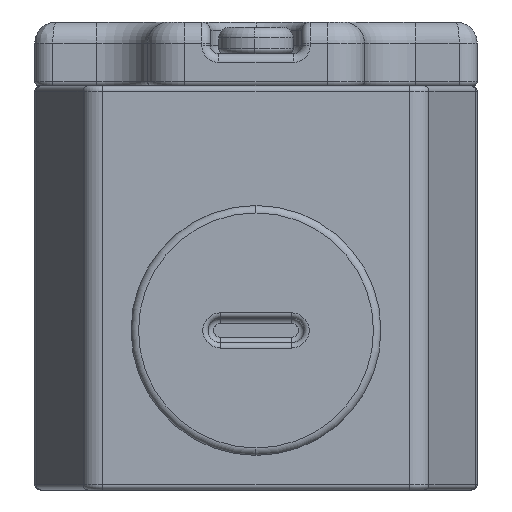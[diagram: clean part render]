
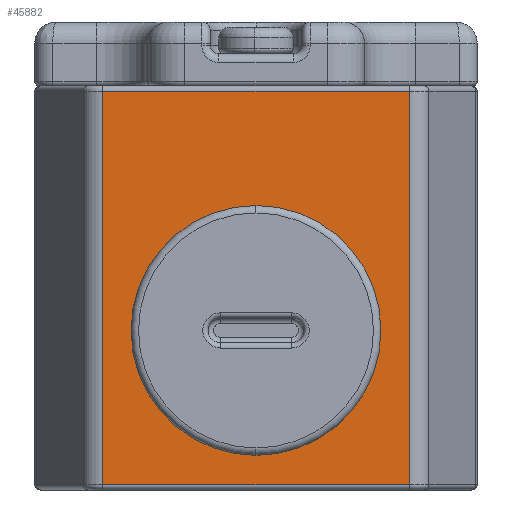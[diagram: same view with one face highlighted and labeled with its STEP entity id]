
A CAD part, front view. The second image highlights one B-rep face of the part: STEP entity #45882.
In plain terms, the highlighted planar face has unit normal (0, -1, 0).
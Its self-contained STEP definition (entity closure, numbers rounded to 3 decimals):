
#1698 = VERTEX_POINT ( 'NONE', #18604 ) ;
#1852 = VERTEX_POINT ( 'NONE', #12723 ) ;
#2044 = ORIENTED_EDGE ( 'NONE', *, *, #66373, .T. ) ;
#2371 = LINE ( 'NONE', #40154, #43772 ) ;
#3180 = VECTOR ( 'NONE', #59586, 1000. ) ;
#3765 = DIRECTION ( 'NONE',  ( 0., 1., 0. ) ) ;
#5604 = CIRCLE ( 'NONE', #63470, 11. ) ;
#5847 = DIRECTION ( 'NONE',  ( 0., 0., -1. ) ) ;
#8969 = PLANE ( 'NONE',  #44343 ) ;
#10917 = DIRECTION ( 'NONE',  ( 0., 1., 0. ) ) ;
#11167 = CIRCLE ( 'NONE', #19644, 11. ) ;
#11884 = CARTESIAN_POINT ( 'NONE',  ( 0., -80., 4. ) ) ;
#12723 = CARTESIAN_POINT ( 'NONE',  ( 14.401, -80., 0.5 ) ) ;
#14139 = ORIENTED_EDGE ( 'NONE', *, *, #21237, .T. ) ;
#14346 = CARTESIAN_POINT ( 'NONE',  ( -20.8, -80., 38. ) ) ;
#17031 = VERTEX_POINT ( 'NONE', #47786 ) ;
#18604 = CARTESIAN_POINT ( 'NONE',  ( 14.401, -80., 37.5 ) ) ;
#18733 = EDGE_LOOP ( 'NONE', ( #34837, #14139, #27853, #2044 ) ) ;
#19644 = AXIS2_PLACEMENT_3D ( 'NONE', #43299, #10917, #48593 ) ;
#21237 = EDGE_CURVE ( 'NONE', #17031, #1852, #46229, .T. ) ;
#22126 = CARTESIAN_POINT ( 'NONE',  ( -14.401, -80., 38. ) ) ;
#22163 = CARTESIAN_POINT ( 'NONE',  ( -20.8, -80., 0.5 ) ) ;
#22179 = EDGE_CURVE ( 'NONE', #33046, #17031, #40485, .T. ) ;
#26898 = FACE_OUTER_BOUND ( 'NONE', #18733, .T. ) ;
#27853 = ORIENTED_EDGE ( 'NONE', *, *, #31120, .T. ) ;
#28855 = DIRECTION ( 'NONE',  ( -1., 0., 0. ) ) ;
#30588 = CARTESIAN_POINT ( 'NONE',  ( 0., -80., 15. ) ) ;
#31120 = EDGE_CURVE ( 'NONE', #1852, #1698, #2371, .T. ) ;
#32445 = CARTESIAN_POINT ( 'NONE',  ( -14.401, -80., 37.5 ) ) ;
#33046 = VERTEX_POINT ( 'NONE', #32445 ) ;
#34663 = ORIENTED_EDGE ( 'NONE', *, *, #47913, .T. ) ;
#34837 = ORIENTED_EDGE ( 'NONE', *, *, #22179, .T. ) ;
#36000 = LINE ( 'NONE', #60809, #62568 ) ;
#36085 = DIRECTION ( 'NONE',  ( 0., 0., 1. ) ) ;
#39717 = FACE_BOUND ( 'NONE', #67353, .T. ) ;
#40154 = CARTESIAN_POINT ( 'NONE',  ( 14.401, -80., 38. ) ) ;
#40485 = LINE ( 'NONE', #22126, #68687 ) ;
#41591 = DIRECTION ( 'NONE',  ( 0., 0., 1. ) ) ;
#41996 = EDGE_CURVE ( 'NONE', #62951, #59674, #11167, .T. ) ;
#43299 = CARTESIAN_POINT ( 'NONE',  ( 0., -80., 15. ) ) ;
#43772 = VECTOR ( 'NONE', #66561, 1000. ) ;
#44343 = AXIS2_PLACEMENT_3D ( 'NONE', #14346, #3765, #41591 ) ;
#45882 = ADVANCED_FACE ( 'NONE', ( #39717, #26898 ), #8969, .F. ) ;
#46229 = LINE ( 'NONE', #22163, #3180 ) ;
#47786 = CARTESIAN_POINT ( 'NONE',  ( -14.401, -80., 0.5 ) ) ;
#47913 = EDGE_CURVE ( 'NONE', #59674, #62951, #5604, .T. ) ;
#48593 = DIRECTION ( 'NONE',  ( 0., 0., 1. ) ) ;
#51417 = CARTESIAN_POINT ( 'NONE',  ( 0., -80., 26. ) ) ;
#57351 = ORIENTED_EDGE ( 'NONE', *, *, #41996, .T. ) ;
#59586 = DIRECTION ( 'NONE',  ( 1., 0., 0. ) ) ;
#59674 = VERTEX_POINT ( 'NONE', #11884 ) ;
#60809 = CARTESIAN_POINT ( 'NONE',  ( -14.401, -80., 37.5 ) ) ;
#62568 = VECTOR ( 'NONE', #28855, 1000. ) ;
#62951 = VERTEX_POINT ( 'NONE', #51417 ) ;
#63470 = AXIS2_PLACEMENT_3D ( 'NONE', #30588, #67918, #36085 ) ;
#66373 = EDGE_CURVE ( 'NONE', #1698, #33046, #36000, .T. ) ;
#66561 = DIRECTION ( 'NONE',  ( 0., 0., 1. ) ) ;
#67353 = EDGE_LOOP ( 'NONE', ( #34663, #57351 ) ) ;
#67918 = DIRECTION ( 'NONE',  ( 0., 1., 0. ) ) ;
#68687 = VECTOR ( 'NONE', #5847, 1000. ) ;
